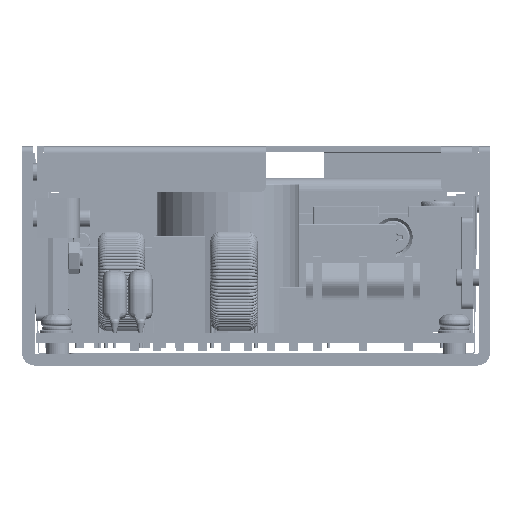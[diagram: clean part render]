
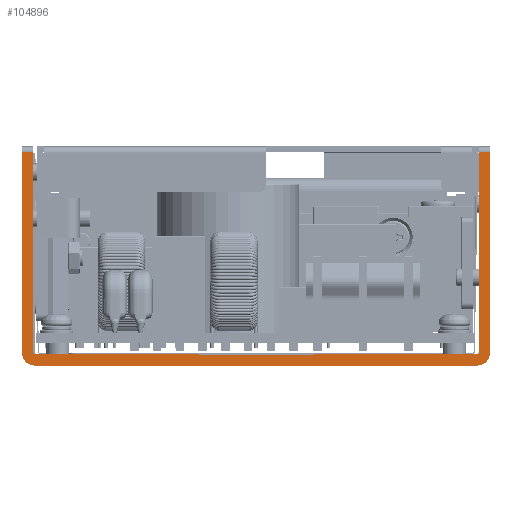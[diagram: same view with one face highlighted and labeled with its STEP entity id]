
A CAD part, left-side view. The second image highlights one B-rep face of the part: STEP entity #104896.
In plain terms, the highlighted planar face has unit normal (-1, 0, 0).
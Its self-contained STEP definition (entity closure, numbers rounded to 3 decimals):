
#8574=PLANE($,#112978);
#10159=FACE_OUTER_BOUND($,#18063,.T.);
#18063=EDGE_LOOP($,(#68341,#68342,#68343,#68344,#68345,#68346,#68347,#68348,
#68349,#68350,#68351,#68352));
#27151=LINE($,#166790,#32055);
#27174=LINE($,#166886,#32078);
#27175=LINE($,#166890,#32079);
#27176=LINE($,#166894,#32080);
#27194=LINE($,#166978,#32098);
#27195=LINE($,#166981,#32099);
#27196=LINE($,#166983,#32100);
#27197=LINE($,#166987,#32101);
#32055=VECTOR($,#129276,34.9);
#32078=VECTOR($,#129355,34.9);
#32079=VECTOR($,#129360,2.);
#32080=VECTOR($,#129365,34.9);
#32098=VECTOR($,#129433,77.);
#32099=VECTOR($,#129436,2.);
#32100=VECTOR($,#129437,34.9);
#32101=VECTOR($,#129440,77.);
#37012=CIRCLE($,#112979,2.2);
#37013=CIRCLE($,#112980,2.2);
#37014=CIRCLE($,#112981,0.2);
#37015=CIRCLE($,#112982,0.2);
#44753=VERTEX_POINT($,#166787);
#44754=VERTEX_POINT($,#166789);
#44798=VERTEX_POINT($,#166883);
#44799=VERTEX_POINT($,#166885);
#44800=VERTEX_POINT($,#166889);
#44801=VERTEX_POINT($,#166893);
#44841=VERTEX_POINT($,#166975);
#44842=VERTEX_POINT($,#166977);
#44843=VERTEX_POINT($,#166980);
#44844=VERTEX_POINT($,#166982);
#44845=VERTEX_POINT($,#166984);
#44846=VERTEX_POINT($,#166986);
#52846=EDGE_CURVE($,#44754,#44753,#27151,.T.);
#52894=EDGE_CURVE($,#44799,#44798,#27174,.T.);
#52896=EDGE_CURVE($,#44799,#44800,#27175,.T.);
#52898=EDGE_CURVE($,#44801,#44800,#27176,.T.);
#52939=EDGE_CURVE($,#44798,#44841,#37012,.T.);
#52940=EDGE_CURVE($,#44841,#44842,#27194,.T.);
#52941=EDGE_CURVE($,#44842,#44754,#37013,.T.);
#52942=EDGE_CURVE($,#44843,#44753,#27195,.T.);
#52943=EDGE_CURVE($,#44843,#44844,#27196,.T.);
#52944=EDGE_CURVE($,#44844,#44845,#37014,.T.);
#52945=EDGE_CURVE($,#44845,#44846,#27197,.T.);
#52946=EDGE_CURVE($,#44846,#44801,#37015,.T.);
#68341=ORIENTED_EDGE($,*,*,#52896,.F.);
#68342=ORIENTED_EDGE($,*,*,#52894,.T.);
#68343=ORIENTED_EDGE($,*,*,#52939,.T.);
#68344=ORIENTED_EDGE($,*,*,#52940,.T.);
#68345=ORIENTED_EDGE($,*,*,#52941,.T.);
#68346=ORIENTED_EDGE($,*,*,#52846,.T.);
#68347=ORIENTED_EDGE($,*,*,#52942,.F.);
#68348=ORIENTED_EDGE($,*,*,#52943,.T.);
#68349=ORIENTED_EDGE($,*,*,#52944,.T.);
#68350=ORIENTED_EDGE($,*,*,#52945,.T.);
#68351=ORIENTED_EDGE($,*,*,#52946,.T.);
#68352=ORIENTED_EDGE($,*,*,#52898,.T.);
#104896=ADVANCED_FACE($,(#10159),#8574,.T.);
#112978=AXIS2_PLACEMENT_3D($,#166974,#129429,#129430);
#112979=AXIS2_PLACEMENT_3D($,#166976,#129431,#129432);
#112980=AXIS2_PLACEMENT_3D($,#166979,#129434,#129435);
#112981=AXIS2_PLACEMENT_3D($,#166985,#129438,#129439);
#112982=AXIS2_PLACEMENT_3D($,#166988,#129441,#129442);
#129276=DIRECTION($,(0.,0.,1.));
#129355=DIRECTION($,(0.,0.,-1.));
#129360=DIRECTION($,(0.,-1.,0.));
#129365=DIRECTION($,(0.,0.,1.));
#129429=DIRECTION('center_axis',(-1.,0.,0.));
#129430=DIRECTION('ref_axis',(0.,0.,1.));
#129431=DIRECTION('center_axis',(-1.,0.,0.));
#129432=DIRECTION('ref_axis',(0.,1.,0.));
#129433=DIRECTION($,(0.,-1.,0.));
#129434=DIRECTION('center_axis',(-1.,0.,0.));
#129435=DIRECTION('ref_axis',(0.,0.,-1.));
#129436=DIRECTION($,(0.,-1.,0.));
#129437=DIRECTION($,(0.,0.,-1.));
#129438=DIRECTION('center_axis',(1.,0.,0.));
#129439=DIRECTION('ref_axis',(0.,-1.,0.));
#129440=DIRECTION($,(0.,1.,0.));
#129441=DIRECTION('center_axis',(1.,0.,0.));
#129442=DIRECTION('ref_axis',(0.,0.,-1.));
#166787=CARTESIAN_POINT('',(0.,0.,
37.1));
#166789=CARTESIAN_POINT('',(0.,0.,
2.2));
#166790=CARTESIAN_POINT($,(0.,0.,
2.2));
#166883=CARTESIAN_POINT('',(0.,81.4,2.2));
#166885=CARTESIAN_POINT('',(0.,81.4,37.1));
#166886=CARTESIAN_POINT($,(0.,81.4,-1.193));
#166889=CARTESIAN_POINT('',(0.,79.4,37.1));
#166890=CARTESIAN_POINT($,(0.,39.7,37.1));
#166893=CARTESIAN_POINT('',(0.,79.4,2.2));
#166894=CARTESIAN_POINT($,(0.,79.4,-1.193));
#166974=CARTESIAN_POINT('Origin',(0.,0.,0.));
#166975=CARTESIAN_POINT('',(0.,79.2,0.));
#166976=CARTESIAN_POINT('Origin',(0.,79.2,2.2));
#166977=CARTESIAN_POINT('',(0.,2.2,0.));
#166978=CARTESIAN_POINT($,(0.,81.4,0.));
#166979=CARTESIAN_POINT('Origin',(0.,2.2,2.2));
#166980=CARTESIAN_POINT('',(0.,2.,37.1));
#166981=CARTESIAN_POINT($,(0.,1.,37.1));
#166982=CARTESIAN_POINT('',(0.,2.,2.2));
#166983=CARTESIAN_POINT($,(0.,2.,-1.193));
#166984=CARTESIAN_POINT('',(0.,2.2,2.));
#166985=CARTESIAN_POINT('Origin',(0.,2.2,2.2));
#166986=CARTESIAN_POINT('',(0.,79.2,2.));
#166987=CARTESIAN_POINT($,(0.,81.4,2.));
#166988=CARTESIAN_POINT('Origin',(0.,79.2,2.2));
